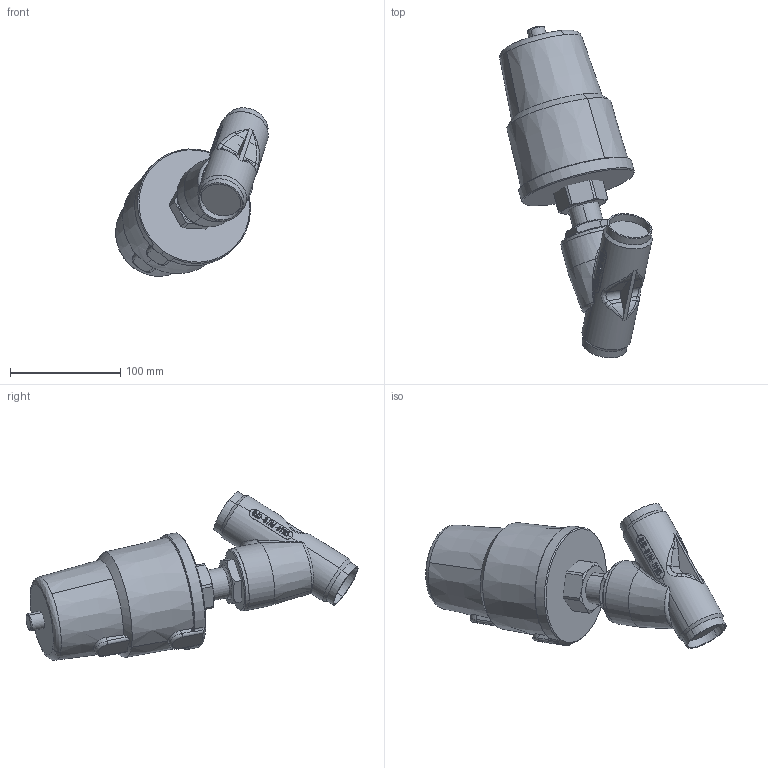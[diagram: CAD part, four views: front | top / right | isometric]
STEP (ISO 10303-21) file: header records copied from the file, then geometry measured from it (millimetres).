
FILE_DESCRIPTION (( 'STEP AP203' ), '1' );
FILE_NAME ('90缸DN40焊接DIN11850-2------20230403.STEP', '2023-04-03T07:11:51', ( '微软用户' ), ( '微软中国' ), 'SwSTEP 2.0', 'SolidWorks 2017', '' );
FILE_SCHEMA (( 'CONFIG_CONTROL_DESIGN' ));
Length unit declared in the file: millimetre
Products named in the file (6): 錨璃20; 90詰DN40爾諉DIN11850-2------20230403; 9040蟈諉_1; duangai_1; 634001H20爾諉概极41  1.5; 錨璃19
Assembly tree (5 placements, depth 2):
  90詰DN40爾諉DIN11850-2------20230403
    9040蟈諉_1
    duangai_1
    錨璃19
    錨璃20
    634001H20爾諉概极41  1.5
Bounding box: 138.38 x 301.37 x 152.88 mm (x, y, z)
Volume: 1265141.1 mm3; surface area: 136991.3 mm2
Topology: 5 solids, 6 shells, 517 faces, 1395 edges, 906 vertices
Faces by surface type: bspline 215, cylinder 133, plane 105, cone 52, torus 12
Entity records: 71953 total; most frequent: CARTESIAN_POINT 60096, ORIENTED_EDGE 2790, DIRECTION 1642, EDGE_CURVE 1395, VERTEX_POINT 906, B_SPLINE_CURVE_WITH_KNOTS 619, AXIS2_PLACEMENT_3D 584, EDGE_LOOP 535
